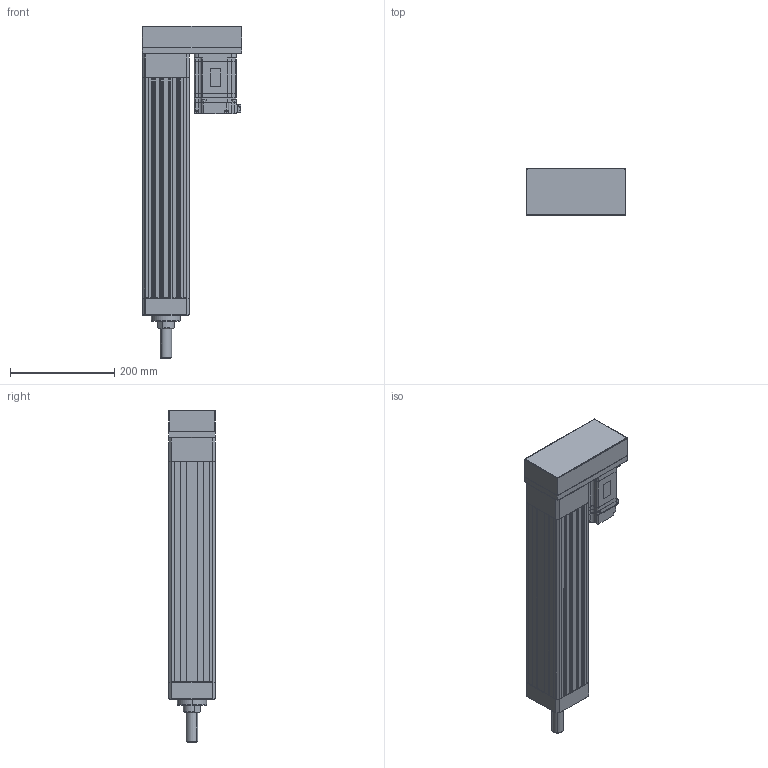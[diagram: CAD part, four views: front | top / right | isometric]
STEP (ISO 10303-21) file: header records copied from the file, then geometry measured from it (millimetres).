
FILE_DESCRIPTION (( 'STEP AP203' ), '1' );
FILE_NAME ('ANS090R-P300-05(10)(20)-W75-M.STEP', '2019-03-02T10:18:46', ( 'user' ), ( '' ), 'SwSTEP 2.0', 'SolidWorks 2013', '' );
FILE_SCHEMA (( 'CONFIG_CONTROL_DESIGN' ));
Length unit declared in the file: millimetre
Products named in the file (4): ANS090R P300 VER2; SGMJV_08A_A21; ANS090 ROD ST300-M; ANS090R-P300-05(10)(20)-W75-M
Assembly tree (3 placements, depth 2):
  ANS090R-P300-05(10)(20)-W75-M
    ANS090R P300 VER2
    SGMJV_08A_A21
    ANS090 ROD ST300-M
Bounding box: 190 x 90 x 636 mm (x, y, z)
Volume: 3157409.5 mm3; surface area: 595256.9 mm2
Topology: 3 solids, 3 shells, 1078 faces, 2857 edges, 1838 vertices
Faces by surface type: plane 646, cylinder 346, cone 74, bspline 8, sphere 4
Entity records: 33969 total; most frequent: CARTESIAN_POINT 6617, ORIENTED_EDGE 5674, DIRECTION 5555, EDGE_CURVE 2837, LINE 1987, VECTOR 1987, VERTEX_POINT 1838, AXIS2_PLACEMENT_3D 1784
